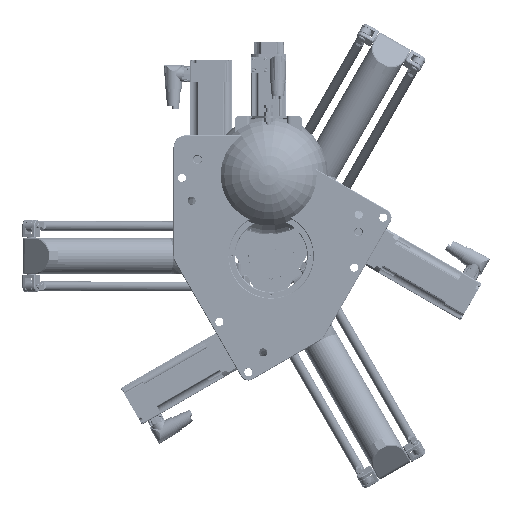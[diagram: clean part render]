
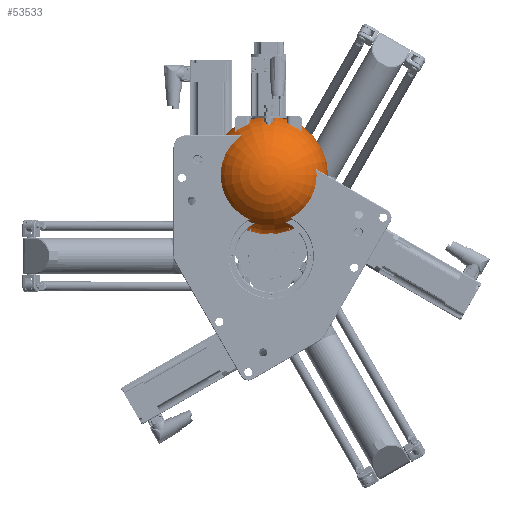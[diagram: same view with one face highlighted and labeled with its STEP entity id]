
A CAD part, top view. The second image highlights one B-rep face of the part: STEP entity #53533.
In plain terms, the highlighted toroidal (fillet/blend) face has major radius 0.306 mm and minor radius 99.096 mm.
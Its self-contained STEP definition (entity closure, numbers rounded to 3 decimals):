
#22431 = FACE_OUTER_BOUND ( 'NONE', #136253, .T. ) ;
#33416 = CARTESIAN_POINT ( 'NONE',  ( -21.216, 133.786, -55.449 ) ) ;
#40015 = VERTEX_POINT ( 'NONE', #33416 ) ;
#42408 = DIRECTION ( 'NONE',  ( 0., 0., 1. ) ) ;
#45907 = CARTESIAN_POINT ( 'NONE',  ( -4.126, 133.786, 42.215 ) ) ;
#53533 = ADVANCED_FACE ( 'NONE', ( #22431 ), #96454, .T. ) ;
#55413 = AXIS2_PLACEMENT_3D ( 'NONE', #76478, #42408, #136981 ) ;
#74620 = CIRCLE ( 'NONE', #55413, 17.09 ) ;
#76478 = CARTESIAN_POINT ( 'NONE',  ( -4.126, 133.786, -55.449 ) ) ;
#96065 = DIRECTION ( 'NONE',  ( -1., 0., 0. ) ) ;
#96454 = TOROIDAL_SURFACE ( 'NONE', #152385, 0.306, 99.096 ) ;
#111499 = ORIENTED_EDGE ( 'NONE', *, *, #125575, .F. ) ;
#125575 = EDGE_CURVE ( 'NONE', #40015, #40015, #74620, .T. ) ;
#136253 = EDGE_LOOP ( 'NONE', ( #111499 ) ) ;
#136981 = DIRECTION ( 'NONE',  ( -1., 0., 0. ) ) ;
#152385 = AXIS2_PLACEMENT_3D ( 'NONE', #45907, #155158, #96065 ) ;
#155158 = DIRECTION ( 'NONE',  ( 0., 0., 1. ) ) ;
